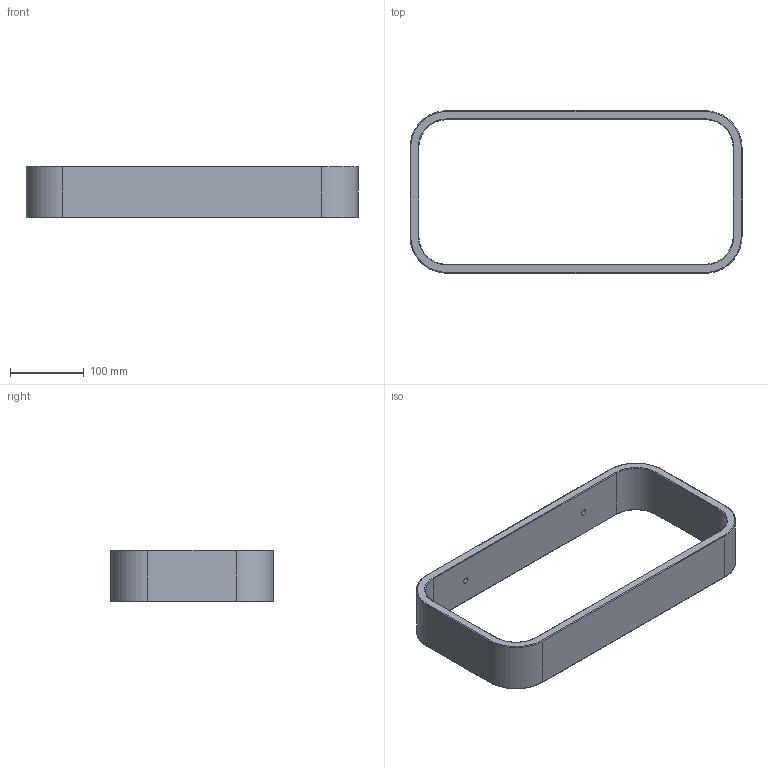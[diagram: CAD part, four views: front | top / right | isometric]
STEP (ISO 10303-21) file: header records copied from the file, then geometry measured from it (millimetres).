
FILE_DESCRIPTION(/* description */ (''),/* implementation_level */ '2;1');
FILE_NAME(/* name */ 'BATHCO~3',/* time_stamp */ '2024-05-21T10:34:42+02:00',/* author */ (''),/* organization */ (''),/* preprocessor_version */ 'ST-DEVELOPER v16.5',/* originating_system */ '',/* authorisation */ '');
FILE_SCHEMA (('CONFIG_CONTROL_DESIGN'));
Length unit declared in the file: millimetre
Products named in the file (1): Document
Bounding box: 450 x 220 x 70 mm (x, y, z)
Volume: 1019556.6 mm3; surface area: 197970.8 mm2
Topology: 1 solids, 1 shells, 114 faces, 277 edges, 174 vertices
Faces by surface type: plane 56, bspline 32, cylinder 26
Full cylindrical faces by diameter (mm): 8 x2
Entity records: 3630 total; most frequent: CARTESIAN_POINT 1733, ORIENTED_EDGE 554, EDGE_CURVE 277, B_SPLINE_CURVE_WITH_KNOTS 175, VERTEX_POINT 174, EDGE_LOOP 129, ADVANCED_FACE 114, FACE_OUTER_BOUND 114
